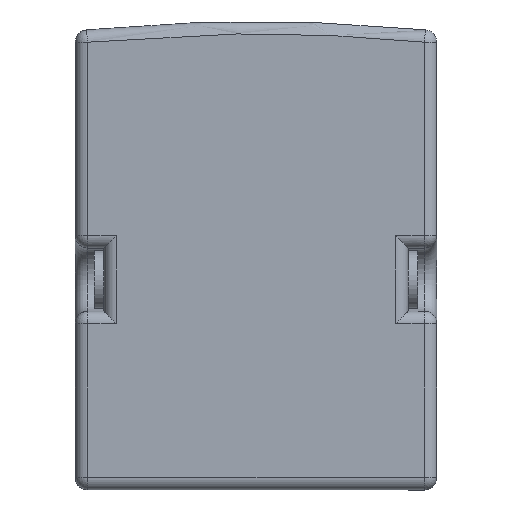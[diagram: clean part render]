
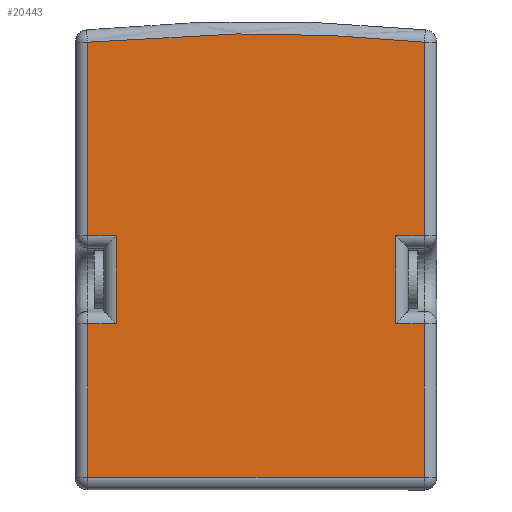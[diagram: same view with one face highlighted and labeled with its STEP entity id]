
A CAD part, front view. The second image highlights one B-rep face of the part: STEP entity #20443.
In plain terms, the highlighted planar face has unit normal (0, -1, 0) as drawn and (0, 0, -1) by its records, which use the part's own axes.
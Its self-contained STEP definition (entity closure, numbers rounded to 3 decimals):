
#3260 = LINE ( 'NONE', #4122, #3261 ) ;
#3261 = VECTOR ( 'NONE', #4123, 1000. ) ;
#3262 = LINE ( 'NONE', #4128, #3263 ) ;
#3263 = VECTOR ( 'NONE', #4129, 1000. ) ;
#3264 = LINE ( 'NONE', #4130, #3265 ) ;
#3265 = VECTOR ( 'NONE', #4131, 1000. ) ;
#3266 = LINE ( 'NONE', #4132, #3267 ) ;
#3267 = VECTOR ( 'NONE', #4133, 1000. ) ;
#3268 = LINE ( 'NONE', #4134, #3269 ) ;
#3269 = VECTOR ( 'NONE', #4135, 1000. ) ;
#3270 = LINE ( 'NONE', #4136, #3271 ) ;
#3271 = VECTOR ( 'NONE', #4137, 1000. ) ;
#3272 = LINE ( 'NONE', #4142, #3273 ) ;
#3273 = VECTOR ( 'NONE', #4143, 1000. ) ;
#3274 = LINE ( 'NONE', #4148, #3275 ) ;
#3275 = VECTOR ( 'NONE', #4149, 1000. ) ;
#3276 = LINE ( 'NONE', #4150, #3277 ) ;
#3277 = VECTOR ( 'NONE', #4151, 1000. ) ;
#3278 = LINE ( 'NONE', #4156, #3279 ) ;
#3279 = VECTOR ( 'NONE', #4157, 1000. ) ;
#3280 = LINE ( 'NONE', #4158, #3281 ) ;
#3281 = VECTOR ( 'NONE', #4159, 1000. ) ;
#4122 = CARTESIAN_POINT ( 'NONE',  ( 159.5, 163., -7.5 ) ) ;
#4123 = DIRECTION ( 'NONE',  ( 0., 1., 0. ) ) ;
#4128 = CARTESIAN_POINT ( 'NONE',  ( -7.5, 76., -7.5 ) ) ;
#4129 = DIRECTION ( 'NONE',  ( 1., 0., 0. ) ) ;
#4130 = CARTESIAN_POINT ( 'NONE',  ( 174.5, 163., -7.5 ) ) ;
#4131 = DIRECTION ( 'NONE',  ( 0., 1., 0. ) ) ;
#4132 = CARTESIAN_POINT ( 'NONE',  ( -7.5, 156.5, -7.5 ) ) ;
#4133 = DIRECTION ( 'NONE',  ( -1., 0., 0. ) ) ;
#4134 = CARTESIAN_POINT ( 'NONE',  ( -1.5, 163., -7.5 ) ) ;
#4135 = DIRECTION ( 'NONE',  ( 0., -1., 0. ) ) ;
#4136 = CARTESIAN_POINT ( 'NONE',  ( -7.5, 76., -7.5 ) ) ;
#4137 = DIRECTION ( 'NONE',  ( 1., 0., 0. ) ) ;
#4142 = CARTESIAN_POINT ( 'NONE',  ( 13.5, 163., -7.5 ) ) ;
#4143 = DIRECTION ( 'NONE',  ( 0., -1., 0. ) ) ;
#4148 = CARTESIAN_POINT ( 'NONE',  ( -7.5, 30., -7.5 ) ) ;
#4149 = DIRECTION ( 'NONE',  ( -1., 0., 0. ) ) ;
#4150 = CARTESIAN_POINT ( 'NONE',  ( -1.5, 163., -7.5 ) ) ;
#4151 = DIRECTION ( 'NONE',  ( 0., -1., 0. ) ) ;
#4152 = CARTESIAN_POINT ( 'NONE',  ( -1.5, -71.134, -7.5 ) ) ;
#4153 = CARTESIAN_POINT ( 'NONE',  ( 57.07, -76.96, -7.5 ) ) ;
#4154 = CARTESIAN_POINT ( 'NONE',  ( 115.93, -76.96, -7.5 ) ) ;
#4155 = CARTESIAN_POINT ( 'NONE',  ( 174.5, -71.134, -7.5 ) ) ;
#4156 = CARTESIAN_POINT ( 'NONE',  ( 174.5, 163., -7.5 ) ) ;
#4157 = DIRECTION ( 'NONE',  ( 0., 1., 0. ) ) ;
#4158 = CARTESIAN_POINT ( 'NONE',  ( -7.5, 30., -7.5 ) ) ;
#4159 = DIRECTION ( 'NONE',  ( -1., 0., 0. ) ) ;
#9322 = VERTEX_POINT ( 'NONE', #26589 ) ;
#9323 = VERTEX_POINT ( 'NONE', #26590 ) ;
#9325 = VERTEX_POINT ( 'NONE', #26592 ) ;
#9346 = VERTEX_POINT ( 'NONE', #26613 ) ;
#9365 = VERTEX_POINT ( 'NONE', #26632 ) ;
#9378 = VERTEX_POINT ( 'NONE', #26645 ) ;
#9382 = VERTEX_POINT ( 'NONE', #26649 ) ;
#9433 = VERTEX_POINT ( 'NONE', #26700 ) ;
#9474 = VERTEX_POINT ( 'NONE', #26741 ) ;
#9488 = VERTEX_POINT ( 'NONE', #26755 ) ;
#9496 = VERTEX_POINT ( 'NONE', #26763 ) ;
#9497 = VERTEX_POINT ( 'NONE', #26764 ) ;
#20443 = ADVANCED_FACE ( 'NONE', ( #30451 ), #27533, .F. ) ;
#21139 = EDGE_CURVE ( 'NONE', #9365, #9488, #3260, .T. ) ;
#21141 = EDGE_CURVE ( 'NONE', #9488, #9382, #3262, .T. ) ;
#21142 = EDGE_CURVE ( 'NONE', #9382, #9325, #3264, .T. ) ;
#21143 = EDGE_CURVE ( 'NONE', #9325, #9322, #3266, .T. ) ;
#21144 = EDGE_CURVE ( 'NONE', #9322, #9474, #3268, .T. ) ;
#21145 = EDGE_CURVE ( 'NONE', #9474, #9496, #3270, .T. ) ;
#21147 = EDGE_CURVE ( 'NONE', #9496, #9497, #3272, .T. ) ;
#21149 = EDGE_CURVE ( 'NONE', #9497, #9323, #3274, .T. ) ;
#21150 = EDGE_CURVE ( 'NONE', #9323, #9433, #3276, .T. ) ;
#21151 = EDGE_CURVE ( 'NONE', #9433, #9346, #21755, .T. ) ;
#21152 = EDGE_CURVE ( 'NONE', #9346, #9378, #3278, .T. ) ;
#21153 = EDGE_CURVE ( 'NONE', #9378, #9365, #3280, .T. ) ;
#21755 =( BOUNDED_CURVE ( )  B_SPLINE_CURVE ( 3, ( #4152, #4153, #4154, #4155 ),
 .UNSPECIFIED., .F., .F. ) 
 B_SPLINE_CURVE_WITH_KNOTS ( ( 4, 4 ),
 ( 0., 1. ),
 .UNSPECIFIED. ) 
 CURVE ( )  GEOMETRIC_REPRESENTATION_ITEM ( )  RATIONAL_B_SPLINE_CURVE ( ( 1., 0.997, 0.997, 1. ) ) 
 REPRESENTATION_ITEM ( '' )  );
#22198 = ORIENTED_EDGE ( 'NONE', *, *, #21152, .F. ) ;
#22199 = ORIENTED_EDGE ( 'NONE', *, *, #21151, .F. ) ;
#22200 = ORIENTED_EDGE ( 'NONE', *, *, #21150, .F. ) ;
#22201 = ORIENTED_EDGE ( 'NONE', *, *, #21149, .F. ) ;
#22202 = ORIENTED_EDGE ( 'NONE', *, *, #21147, .F. ) ;
#22203 = ORIENTED_EDGE ( 'NONE', *, *, #21145, .F. ) ;
#22204 = ORIENTED_EDGE ( 'NONE', *, *, #21144, .F. ) ;
#22205 = ORIENTED_EDGE ( 'NONE', *, *, #21143, .F. ) ;
#22206 = ORIENTED_EDGE ( 'NONE', *, *, #21142, .F. ) ;
#22207 = ORIENTED_EDGE ( 'NONE', *, *, #21141, .F. ) ;
#22208 = ORIENTED_EDGE ( 'NONE', *, *, #21139, .F. ) ;
#22209 = ORIENTED_EDGE ( 'NONE', *, *, #21153, .F. ) ;
#26589 = CARTESIAN_POINT ( 'NONE',  ( -1.5, 156.5, -7.5 ) ) ;
#26590 = CARTESIAN_POINT ( 'NONE',  ( -1.5, 30., -7.5 ) ) ;
#26592 = CARTESIAN_POINT ( 'NONE',  ( 174.5, 156.5, -7.5 ) ) ;
#26613 = CARTESIAN_POINT ( 'NONE',  ( 174.5, -71.134, -7.5 ) ) ;
#26632 = CARTESIAN_POINT ( 'NONE',  ( 159.5, 30., -7.5 ) ) ;
#26645 = CARTESIAN_POINT ( 'NONE',  ( 174.5, 30., -7.5 ) ) ;
#26649 = CARTESIAN_POINT ( 'NONE',  ( 174.5, 76., -7.5 ) ) ;
#26700 = CARTESIAN_POINT ( 'NONE',  ( -1.5, -71.134, -7.5 ) ) ;
#26741 = CARTESIAN_POINT ( 'NONE',  ( -1.5, 76., -7.5 ) ) ;
#26755 = CARTESIAN_POINT ( 'NONE',  ( 159.5, 76., -7.5 ) ) ;
#26763 = CARTESIAN_POINT ( 'NONE',  ( 13.5, 76., -7.5 ) ) ;
#26764 = CARTESIAN_POINT ( 'NONE',  ( 13.5, 30., -7.5 ) ) ;
#27533 = PLANE ( 'NONE',  #29144 ) ;
#27534 = CARTESIAN_POINT ( 'NONE',  ( -7.5, 163., -7.5 ) ) ;
#27535 = DIRECTION ( 'NONE',  ( 0., 0., 1. ) ) ;
#27536 = DIRECTION ( 'NONE',  ( 1., 0., 0. ) ) ;
#29144 = AXIS2_PLACEMENT_3D ( 'NONE', #27534, #27535, #27536 ) ;
#30166 = EDGE_LOOP ( 'NONE', ( #22198, #22199, #22200, #22201, #22202, #22203, #22204, #22205, #22206, #22207, #22208, #22209 ) ) ;
#30451 = FACE_OUTER_BOUND ( 'NONE', #30166, .T. ) ;
